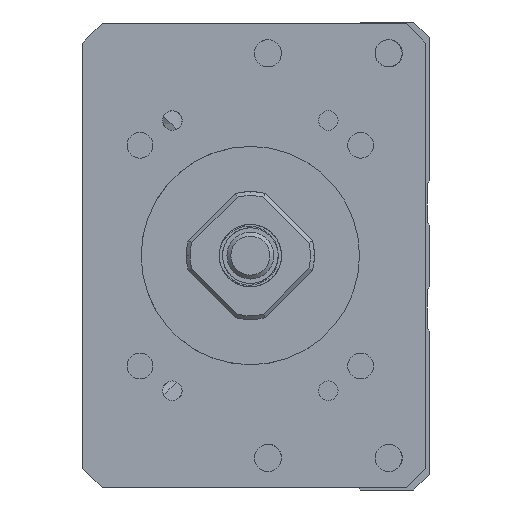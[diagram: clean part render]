
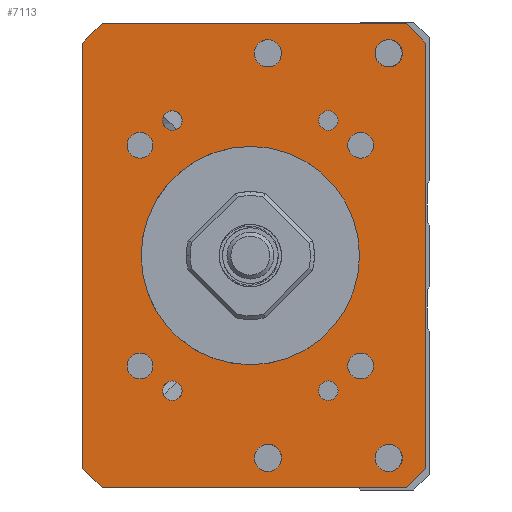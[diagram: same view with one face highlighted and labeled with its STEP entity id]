
A CAD part, left-side view. The second image highlights one B-rep face of the part: STEP entity #7113.
In plain terms, the highlighted planar face has unit normal (-1, 0, 0).
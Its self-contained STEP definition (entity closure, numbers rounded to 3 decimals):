
#4259=CIRCLE('',#14037,14.);
#4268=CIRCLE('',#14048,1.65);
#4269=CIRCLE('',#14049,1.65);
#4270=CIRCLE('',#14050,1.65);
#4271=CIRCLE('',#14051,1.65);
#4272=CIRCLE('',#14052,1.25);
#4273=CIRCLE('',#14053,1.75);
#4274=CIRCLE('',#14054,1.25);
#4275=CIRCLE('',#14055,1.75);
#4276=CIRCLE('',#14056,1.25);
#4277=CIRCLE('',#14057,1.75);
#4278=CIRCLE('',#14058,1.75);
#4279=CIRCLE('',#14059,1.25);
#4675=PLANE('',#14060);
#5534=LINE('',#18195,#6341);
#5536=LINE('',#18219,#6343);
#5537=LINE('',#18221,#6344);
#5538=LINE('',#18223,#6345);
#5539=LINE('',#18225,#6346);
#5540=LINE('',#18227,#6347);
#5541=LINE('',#18229,#6348);
#5542=LINE('',#18231,#6349);
#6341=VECTOR('',#15420,1.);
#6343=VECTOR('',#15444,1.);
#6344=VECTOR('',#15445,1.);
#6345=VECTOR('',#15446,1.);
#6346=VECTOR('',#15447,1.);
#6347=VECTOR('',#15448,1.);
#6348=VECTOR('',#15449,1.);
#6349=VECTOR('',#15450,1.);
#7113=ADVANCED_FACE('',(#7825,#7826,#7827,#7828,#7829,#7830,#7831,#7832,
#7833,#7834,#7835,#7836,#7837,#7838),#4675,.F.);
#7825=FACE_BOUND('',#8287,.T.);
#7826=FACE_BOUND('',#8288,.T.);
#7827=FACE_BOUND('',#8289,.T.);
#7828=FACE_BOUND('',#8290,.T.);
#7829=FACE_BOUND('',#8291,.T.);
#7830=FACE_BOUND('',#8292,.T.);
#7831=FACE_BOUND('',#8293,.T.);
#7832=FACE_BOUND('',#8294,.T.);
#7833=FACE_BOUND('',#8295,.T.);
#7834=FACE_BOUND('',#8296,.T.);
#7835=FACE_BOUND('',#8297,.T.);
#7836=FACE_BOUND('',#8298,.T.);
#7837=FACE_BOUND('',#8299,.T.);
#7838=FACE_BOUND('',#8300,.T.);
#8287=EDGE_LOOP('',(#9507));
#8288=EDGE_LOOP('',(#9508));
#8289=EDGE_LOOP('',(#9509));
#8290=EDGE_LOOP('',(#9510));
#8291=EDGE_LOOP('',(#9511));
#8292=EDGE_LOOP('',(#9512));
#8293=EDGE_LOOP('',(#9513));
#8294=EDGE_LOOP('',(#9514));
#8295=EDGE_LOOP('',(#9515));
#8296=EDGE_LOOP('',(#9516,#9517,#9518,#9519,#9520,#9521,#9522,#9523));
#8297=EDGE_LOOP('',(#9524));
#8298=EDGE_LOOP('',(#9525));
#8299=EDGE_LOOP('',(#9526));
#8300=EDGE_LOOP('',(#9527));
#9507=ORIENTED_EDGE('',*,*,#12735,.F.);
#9508=ORIENTED_EDGE('',*,*,#12736,.F.);
#9509=ORIENTED_EDGE('',*,*,#12737,.F.);
#9510=ORIENTED_EDGE('',*,*,#12738,.F.);
#9511=ORIENTED_EDGE('',*,*,#12739,.F.);
#9512=ORIENTED_EDGE('',*,*,#12740,.T.);
#9513=ORIENTED_EDGE('',*,*,#12741,.F.);
#9514=ORIENTED_EDGE('',*,*,#12742,.F.);
#9515=ORIENTED_EDGE('',*,*,#12743,.F.);
#9516=ORIENTED_EDGE('',*,*,#12732,.T.);
#9517=ORIENTED_EDGE('',*,*,#12744,.T.);
#9518=ORIENTED_EDGE('',*,*,#12745,.F.);
#9519=ORIENTED_EDGE('',*,*,#12746,.T.);
#9520=ORIENTED_EDGE('',*,*,#12747,.F.);
#9521=ORIENTED_EDGE('',*,*,#12748,.T.);
#9522=ORIENTED_EDGE('',*,*,#12749,.T.);
#9523=ORIENTED_EDGE('',*,*,#12750,.T.);
#9524=ORIENTED_EDGE('',*,*,#12751,.F.);
#9525=ORIENTED_EDGE('',*,*,#12752,.F.);
#9526=ORIENTED_EDGE('',*,*,#12753,.F.);
#9527=ORIENTED_EDGE('',*,*,#12712,.F.);
#11712=VERTEX_POINT('',#18118);
#11732=VERTEX_POINT('',#18194);
#11733=VERTEX_POINT('',#18196);
#11735=VERTEX_POINT('',#18202);
#11736=VERTEX_POINT('',#18204);
#11737=VERTEX_POINT('',#18206);
#11738=VERTEX_POINT('',#18208);
#11739=VERTEX_POINT('',#18210);
#11740=VERTEX_POINT('',#18212);
#11741=VERTEX_POINT('',#18214);
#11742=VERTEX_POINT('',#18216);
#11743=VERTEX_POINT('',#18218);
#11744=VERTEX_POINT('',#18220);
#11745=VERTEX_POINT('',#18222);
#11746=VERTEX_POINT('',#18224);
#11747=VERTEX_POINT('',#18226);
#11748=VERTEX_POINT('',#18228);
#11749=VERTEX_POINT('',#18230);
#11750=VERTEX_POINT('',#18233);
#11751=VERTEX_POINT('',#18235);
#11752=VERTEX_POINT('',#18237);
#12712=EDGE_CURVE('',#11712,#11712,#4259,.T.);
#12732=EDGE_CURVE('',#11733,#11732,#5534,.T.);
#12735=EDGE_CURVE('',#11735,#11735,#4268,.T.);
#12736=EDGE_CURVE('',#11736,#11736,#4269,.T.);
#12737=EDGE_CURVE('',#11737,#11737,#4270,.T.);
#12738=EDGE_CURVE('',#11738,#11738,#4271,.T.);
#12739=EDGE_CURVE('',#11739,#11739,#4272,.T.);
#12740=EDGE_CURVE('',#11740,#11740,#4273,.T.);
#12741=EDGE_CURVE('',#11741,#11741,#4274,.T.);
#12742=EDGE_CURVE('',#11742,#11742,#4275,.T.);
#12743=EDGE_CURVE('',#11743,#11743,#4276,.T.);
#12744=EDGE_CURVE('',#11732,#11744,#5536,.T.);
#12745=EDGE_CURVE('',#11745,#11744,#5537,.T.);
#12746=EDGE_CURVE('',#11745,#11746,#5538,.T.);
#12747=EDGE_CURVE('',#11747,#11746,#5539,.T.);
#12748=EDGE_CURVE('',#11747,#11748,#5540,.T.);
#12749=EDGE_CURVE('',#11748,#11749,#5541,.T.);
#12750=EDGE_CURVE('',#11749,#11733,#5542,.T.);
#12751=EDGE_CURVE('',#11750,#11750,#4277,.T.);
#12752=EDGE_CURVE('',#11751,#11751,#4278,.T.);
#12753=EDGE_CURVE('',#11752,#11752,#4279,.T.);
#14037=AXIS2_PLACEMENT_3D('',#18117,#15394,#15395);
#14048=AXIS2_PLACEMENT_3D('',#18201,#15426,#15427);
#14049=AXIS2_PLACEMENT_3D('',#18203,#15428,#15429);
#14050=AXIS2_PLACEMENT_3D('',#18205,#15430,#15431);
#14051=AXIS2_PLACEMENT_3D('',#18207,#15432,#15433);
#14052=AXIS2_PLACEMENT_3D('',#18209,#15434,#15435);
#14053=AXIS2_PLACEMENT_3D('',#18211,#15436,#15437);
#14054=AXIS2_PLACEMENT_3D('',#18213,#15438,#15439);
#14055=AXIS2_PLACEMENT_3D('',#18215,#15440,#15441);
#14056=AXIS2_PLACEMENT_3D('',#18217,#15442,#15443);
#14057=AXIS2_PLACEMENT_3D('',#18232,#15451,#15452);
#14058=AXIS2_PLACEMENT_3D('',#18234,#15453,#15454);
#14059=AXIS2_PLACEMENT_3D('',#18236,#15455,#15456);
#14060=AXIS2_PLACEMENT_3D('',#18238,#15457,#15458);
#15394=DIRECTION('',(-1.,0.,0.));
#15395=DIRECTION('',(0.,1.,0.));
#15420=DIRECTION('',(0.,0.,-1.));
#15426=DIRECTION('',(-1.,0.,0.));
#15427=DIRECTION('',(0.,0.,1.));
#15428=DIRECTION('',(-1.,0.,0.));
#15429=DIRECTION('',(0.,0.,1.));
#15430=DIRECTION('',(-1.,0.,0.));
#15431=DIRECTION('',(0.,0.,1.));
#15432=DIRECTION('',(-1.,0.,0.));
#15433=DIRECTION('',(0.,0.,1.));
#15434=DIRECTION('',(-1.,0.,0.));
#15435=DIRECTION('',(0.,1.,0.));
#15436=DIRECTION('',(1.,0.,0.));
#15437=DIRECTION('',(0.,0.,1.));
#15438=DIRECTION('',(-1.,0.,0.));
#15439=DIRECTION('',(0.,1.,0.));
#15440=DIRECTION('',(-1.,0.,0.));
#15441=DIRECTION('',(0.,0.,1.));
#15442=DIRECTION('',(-1.,0.,0.));
#15443=DIRECTION('',(0.,1.,0.));
#15444=DIRECTION('',(0.,-0.707,-0.707));
#15445=DIRECTION('',(0.,1.,0.));
#15446=DIRECTION('',(0.,-0.707,0.707));
#15447=DIRECTION('',(0.,0.,-1.));
#15448=DIRECTION('',(0.,0.707,0.707));
#15449=DIRECTION('',(0.,1.,0.));
#15450=DIRECTION('',(0.,0.707,-0.707));
#15451=DIRECTION('',(-1.,0.,0.));
#15452=DIRECTION('',(0.,0.,1.));
#15453=DIRECTION('',(-1.,0.,0.));
#15454=DIRECTION('',(0.,0.,1.));
#15455=DIRECTION('',(-1.,0.,0.));
#15456=DIRECTION('',(0.,1.,0.));
#15457=DIRECTION('',(1.,0.,0.));
#15458=DIRECTION('',(0.,-1.,0.));
#18117=CARTESIAN_POINT('',(-211.,0.,-500.));
#18118=CARTESIAN_POINT('',(-211.,14.,-500.));
#18194=CARTESIAN_POINT('',(-211.,21.499,-527.25));
#18195=CARTESIAN_POINT('',(-211.,21.499,-470.25));
#18196=CARTESIAN_POINT('',(-211.,21.499,-472.75));
#18201=CARTESIAN_POINT('',(-211.,14.142,-485.858));
#18202=CARTESIAN_POINT('',(-211.,14.142,-484.208));
#18203=CARTESIAN_POINT('',(-211.,-14.142,-485.858));
#18204=CARTESIAN_POINT('',(-211.,-14.142,-484.208));
#18205=CARTESIAN_POINT('',(-211.,14.142,-514.142));
#18206=CARTESIAN_POINT('',(-211.,14.142,-512.492));
#18207=CARTESIAN_POINT('',(-211.,-14.142,-514.142));
#18208=CARTESIAN_POINT('',(-211.,-14.142,-512.492));
#18209=CARTESIAN_POINT('',(-211.,-10.,-517.321));
#18210=CARTESIAN_POINT('',(-211.,-8.75,-517.321));
#18211=CARTESIAN_POINT('',(-211.,-2.25,-525.936));
#18212=CARTESIAN_POINT('',(-211.,-2.25,-524.186));
#18213=CARTESIAN_POINT('',(-211.,10.,-482.679));
#18214=CARTESIAN_POINT('',(-211.,11.25,-482.679));
#18215=CARTESIAN_POINT('',(-211.,-2.25,-474.064));
#18216=CARTESIAN_POINT('',(-211.,-2.25,-472.314));
#18217=CARTESIAN_POINT('',(-211.,10.,-517.321));
#18218=CARTESIAN_POINT('',(-211.,11.25,-517.321));
#18219=CARTESIAN_POINT('',(-211.,18.999,-529.75));
#18220=CARTESIAN_POINT('',(-211.,18.999,-529.75));
#18221=CARTESIAN_POINT('',(-211.,-22.501,-529.75));
#18222=CARTESIAN_POINT('',(-211.,-20.001,-529.75));
#18223=CARTESIAN_POINT('',(-211.,-22.501,-527.25));
#18224=CARTESIAN_POINT('',(-211.,-22.501,-527.25));
#18225=CARTESIAN_POINT('',(-211.,-22.501,-470.25));
#18226=CARTESIAN_POINT('',(-211.,-22.501,-472.75));
#18227=CARTESIAN_POINT('',(-211.,-22.501,-472.75));
#18228=CARTESIAN_POINT('',(-211.,-20.001,-470.25));
#18229=CARTESIAN_POINT('',(-211.,-22.501,-470.25));
#18230=CARTESIAN_POINT('',(-211.,18.999,-470.25));
#18231=CARTESIAN_POINT('',(-211.,18.999,-470.25));
#18232=CARTESIAN_POINT('',(-211.,-17.75,-474.064));
#18233=CARTESIAN_POINT('',(-211.,-17.75,-472.314));
#18234=CARTESIAN_POINT('',(-211.,-17.75,-525.936));
#18235=CARTESIAN_POINT('',(-211.,-17.75,-524.186));
#18236=CARTESIAN_POINT('',(-211.,-10.,-482.679));
#18237=CARTESIAN_POINT('',(-211.,-8.75,-482.679));
#18238=CARTESIAN_POINT('',(-211.,-22.501,-470.25));
